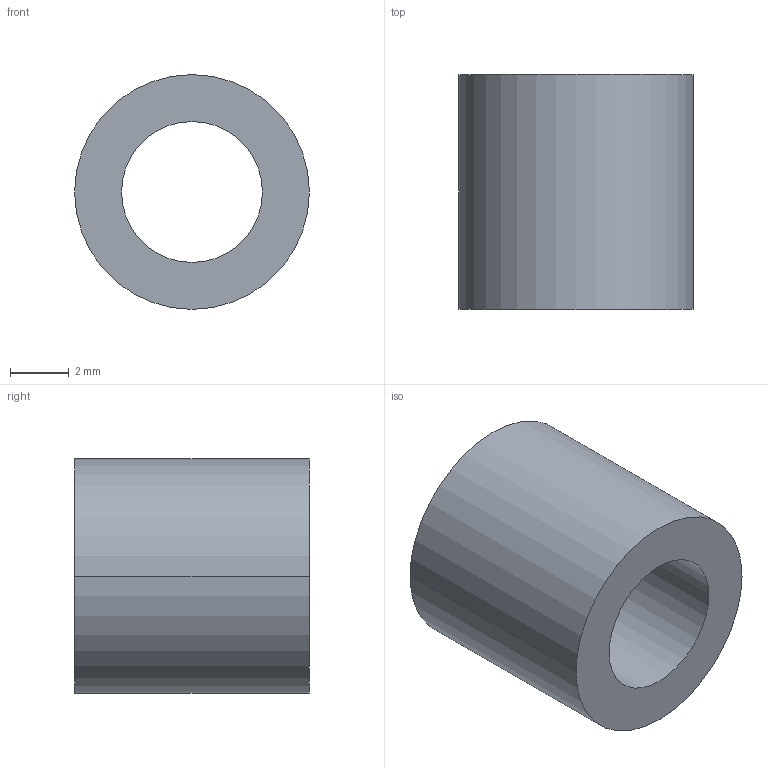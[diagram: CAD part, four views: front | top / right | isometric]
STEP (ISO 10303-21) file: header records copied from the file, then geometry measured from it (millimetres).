
FILE_DESCRIPTION (( 'STEP AP203' ), '1' );
FILE_NAME ('30800.WPP8B4.8.step', '2019-01-23T22:21:47', ( '' ), ( '' ), 'SwSTEP 2.0', 'SolidWorks 2017', '' );
FILE_SCHEMA (( 'CONFIG_CONTROL_DESIGN' ));
Length unit declared in the file: millimetre
Products named in the file (1): 30800.WPP8B4.8
Bounding box: 8 x 8 x 8 mm (x, y, z)
Volume: 253.8 mm3; surface area: 380 mm2
Topology: 1 solids, 1 shells, 8 faces, 16 edges, 10 vertices
Faces by surface type: cylinder 4, torus 2, plane 2
Entity records: 297 total; most frequent: DIRECTION 46, CARTESIAN_POINT 35, ORIENTED_EDGE 32, AXIS2_PLACEMENT_3D 21, EDGE_CURVE 16, CIRCLE 12, VERTEX_POINT 10, EDGE_LOOP 10
